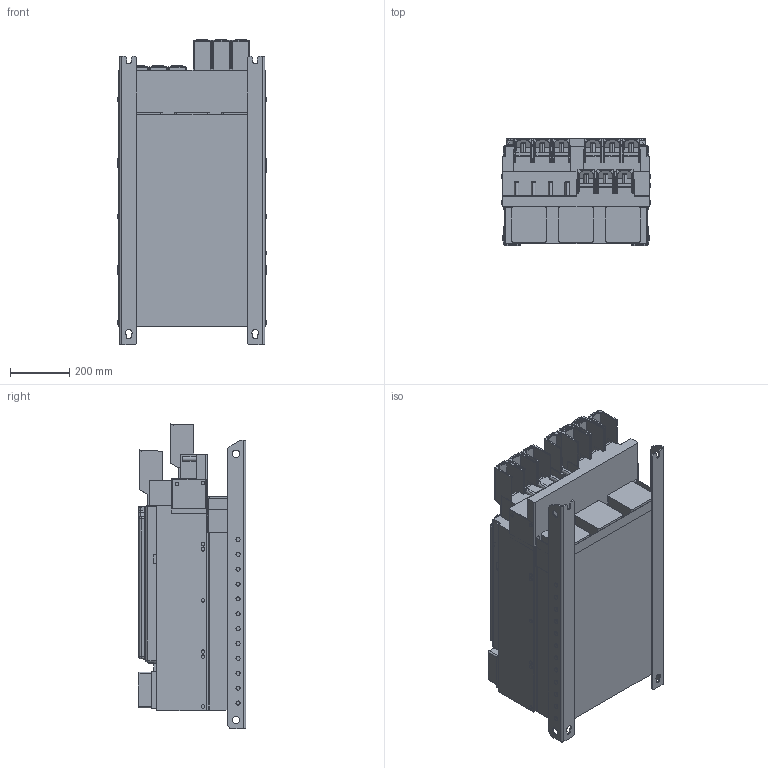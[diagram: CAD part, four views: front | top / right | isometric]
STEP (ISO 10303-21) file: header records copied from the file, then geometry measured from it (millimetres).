
FILE_DESCRIPTION (( 'STEP AP214' ), '1' );
FILE_NAME ('F6-9TR0-P150.STEP', '2022-12-20T11:25:08', ( '' ), ( '' ), 'SwSTEP 2.0', 'SolidWorks 2022', '' );
FILE_SCHEMA (( 'AUTOMOTIVE_DESIGN' ));
Length unit declared in the file: millimetre
Products named in the file (15): Kundenmodell^10049764_000; 10044088_000_Kundenmodell; 10059764_000_Blindabdeckung (Kundenmodell); 10068271_000_Kundenmodell; 10049764_000_Kundenmodell; Kundenmodell^10054881_000; 10054881_000_Deckel (Kundenmodell); Kundenmodell^10059764_000; F6-9TR0-P150; 10051076_000_Kundenmodell; Kundenmodell^10044088_000; 10001526_000_9905071-308K (Standard); Kundenmodell^10068271_000; Kundenmodell^10051076_000_Kundenmodell mit Geberbuchsen; 10049723_000_Kundenmodell
Assembly tree (17 placements, depth 4):
  F6-9TR0-P150
    10049723_000_Kundenmodell
      10068271_000_Kundenmodell
        Kundenmodell^10068271_000
    10049764_000_Kundenmodell
      Kundenmodell^10049764_000
    10051076_000_Kundenmodell
      10059764_000_Blindabdeckung (Kundenmodell)
        Kundenmodell^10059764_000
      Kundenmodell^10051076_000_Kundenmodell mit Geberbuchsen
    10044088_000_Kundenmodell
      10001526_000_9905071-308K (Standard)  x4
      Kundenmodell^10044088_000
    10054881_000_Deckel (Kundenmodell)
      Kundenmodell^10054881_000
Bounding box: 502.5 x 361.5 x 1028.33 mm (x, y, z)
Volume: 127442899.7 mm3; surface area: 4521930 mm2
Topology: 10 solids, 10 shells, 2950 faces, 7648 edges, 4806 vertices
Faces by surface type: plane 1446, cylinder 922, bspline 273, cone 136, sphere 100, torus 73
Entity records: 95146 total; most frequent: CARTESIAN_POINT 27085, ORIENTED_EDGE 14588, DIRECTION 13442, EDGE_CURVE 7294, VERTEX_POINT 4632, VECTOR 4492, LINE 4492, AXIS2_PLACEMENT_3D 4475
